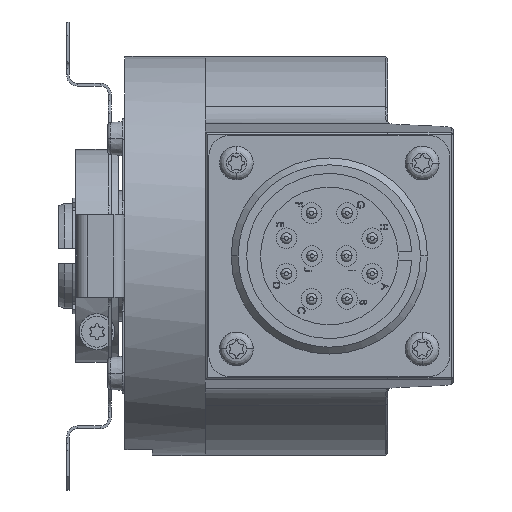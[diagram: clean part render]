
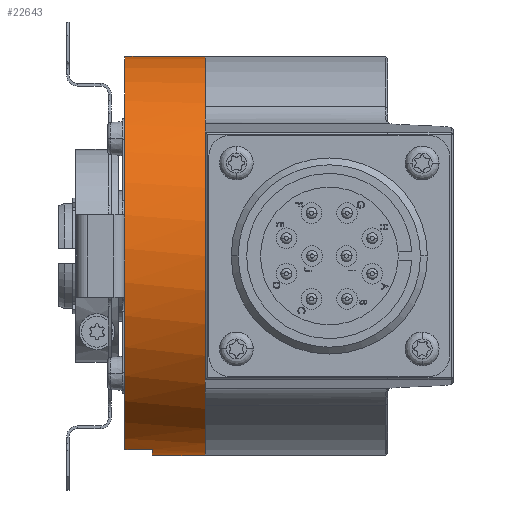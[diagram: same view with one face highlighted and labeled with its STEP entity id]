
A CAD part, front view. The second image highlights one B-rep face of the part: STEP entity #22643.
In plain terms, the highlighted cylindrical face has radius 29 mm (diameter 58 mm), a partial arc.
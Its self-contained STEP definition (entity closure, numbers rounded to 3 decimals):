
#481 = CARTESIAN_POINT ( 'NONE',  ( 8.068, 25.423, -29. ) ) ;
#1044 = CARTESIAN_POINT ( 'NONE',  ( -3.622, 25.423, 29. ) ) ;
#1053 = CIRCLE ( 'NONE', #25292, 29. ) ;
#1059 = VERTEX_POINT ( 'NONE', #13824 ) ;
#1150 = DIRECTION ( 'NONE',  ( 1., 0., 0. ) ) ;
#2113 = EDGE_LOOP ( 'NONE', ( #12067, #16372, #6141, #5132, #10511, #18742 ) ) ;
#5132 = ORIENTED_EDGE ( 'NONE', *, *, #6573, .T. ) ;
#5763 = CARTESIAN_POINT ( 'NONE',  ( 8.068, 25.423, -29. ) ) ;
#5965 = FACE_OUTER_BOUND ( 'NONE', #2113, .T. ) ;
#6007 = VECTOR ( 'NONE', #23915, 1000. ) ;
#6026 = AXIS2_PLACEMENT_3D ( 'NONE', #20682, #13407, #22483 ) ;
#6141 = ORIENTED_EDGE ( 'NONE', *, *, #12219, .F. ) ;
#6352 = VERTEX_POINT ( 'NONE', #22093 ) ;
#6438 = CARTESIAN_POINT ( 'NONE',  ( -3.622, 18.423, -28.142 ) ) ;
#6573 = EDGE_CURVE ( 'NONE', #1059, #16207, #21963, .T. ) ;
#7483 = DIRECTION ( 'NONE',  ( 1., 0., 0. ) ) ;
#8431 = CARTESIAN_POINT ( 'NONE',  ( 8.068, 25.423, 29. ) ) ;
#10511 = ORIENTED_EDGE ( 'NONE', *, *, #20071, .T. ) ;
#10871 = LINE ( 'NONE', #20121, #17535 ) ;
#12067 = ORIENTED_EDGE ( 'NONE', *, *, #16854, .F. ) ;
#12219 = EDGE_CURVE ( 'NONE', #1059, #20613, #10871, .T. ) ;
#13227 = VECTOR ( 'NONE', #1150, 1000. ) ;
#13407 = DIRECTION ( 'NONE',  ( 1., 0., 0. ) ) ;
#13824 = CARTESIAN_POINT ( 'NONE',  ( 0.378, 18.423, -28.142 ) ) ;
#13892 = EDGE_CURVE ( 'NONE', #26723, #20613, #24085, .T. ) ;
#14705 = LINE ( 'NONE', #8431, #13227 ) ;
#15042 = CYLINDRICAL_SURFACE ( 'NONE', #6026, 29. ) ;
#15271 = DIRECTION ( 'NONE',  ( 1., 0., 0. ) ) ;
#16207 = VERTEX_POINT ( 'NONE', #21217 ) ;
#16372 = ORIENTED_EDGE ( 'NONE', *, *, #13892, .T. ) ;
#16575 = DIRECTION ( 'NONE',  ( 0., 0., 1. ) ) ;
#16854 = EDGE_CURVE ( 'NONE', #26723, #6352, #14705, .T. ) ;
#17535 = VECTOR ( 'NONE', #26660, 1000. ) ;
#17965 = DIRECTION ( 'NONE',  ( 0., 0., -1. ) ) ;
#18742 = ORIENTED_EDGE ( 'NONE', *, *, #29382, .F. ) ;
#20071 = EDGE_CURVE ( 'NONE', #16207, #25255, #26151, .T. ) ;
#20121 = CARTESIAN_POINT ( 'NONE',  ( 8.068, 18.423, -28.142 ) ) ;
#20613 = VERTEX_POINT ( 'NONE', #6438 ) ;
#20682 = CARTESIAN_POINT ( 'NONE',  ( 8.068, 25.423, 0. ) ) ;
#21046 = CARTESIAN_POINT ( 'NONE',  ( 0.378, 25.423, 0. ) ) ;
#21217 = CARTESIAN_POINT ( 'NONE',  ( 0.378, 25.423, -29. ) ) ;
#21963 = CIRCLE ( 'NONE', #29102, 29. ) ;
#22093 = CARTESIAN_POINT ( 'NONE',  ( 8.068, 25.423, 29. ) ) ;
#22483 = DIRECTION ( 'NONE',  ( 0., 0., -1. ) ) ;
#22643 = ADVANCED_FACE ( 'NONE', ( #5965 ), #15042, .T. ) ;
#23915 = DIRECTION ( 'NONE',  ( 1., 0., 0. ) ) ;
#24085 = CIRCLE ( 'NONE', #25039, 29. ) ;
#24933 = CARTESIAN_POINT ( 'NONE',  ( -3.622, 25.423, 0. ) ) ;
#25039 = AXIS2_PLACEMENT_3D ( 'NONE', #24933, #29262, #17965 ) ;
#25255 = VERTEX_POINT ( 'NONE', #481 ) ;
#25292 = AXIS2_PLACEMENT_3D ( 'NONE', #26146, #15271, #26420 ) ;
#26146 = CARTESIAN_POINT ( 'NONE',  ( 8.068, 25.423, 0. ) ) ;
#26151 = LINE ( 'NONE', #5763, #6007 ) ;
#26420 = DIRECTION ( 'NONE',  ( 0., 0., -1. ) ) ;
#26660 = DIRECTION ( 'NONE',  ( -1., 0., 0. ) ) ;
#26723 = VERTEX_POINT ( 'NONE', #1044 ) ;
#29102 = AXIS2_PLACEMENT_3D ( 'NONE', #21046, #7483, #16575 ) ;
#29262 = DIRECTION ( 'NONE',  ( 1., 0., 0. ) ) ;
#29382 = EDGE_CURVE ( 'NONE', #6352, #25255, #1053, .T. ) ;
